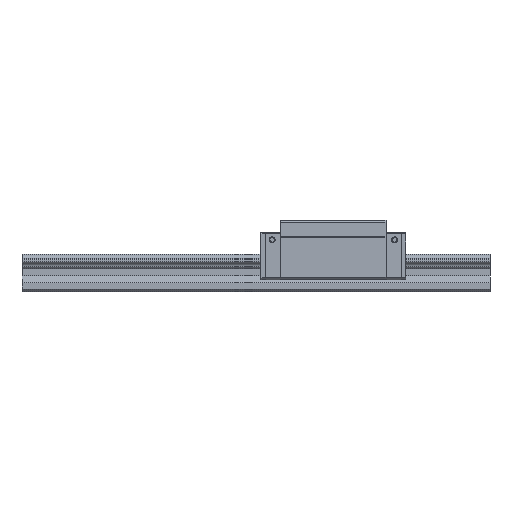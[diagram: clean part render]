
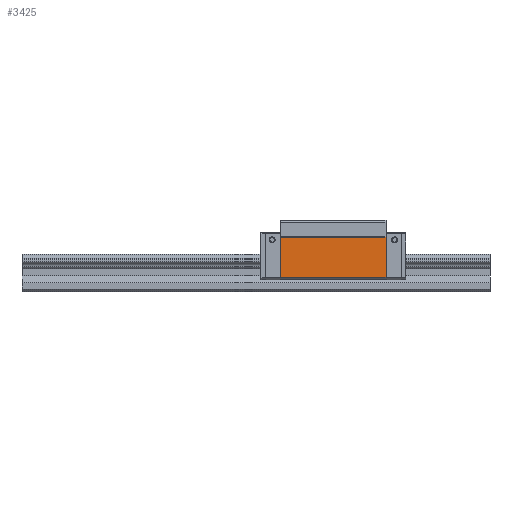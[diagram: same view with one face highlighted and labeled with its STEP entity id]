
A CAD part, top view. The second image highlights one B-rep face of the part: STEP entity #3425.
In plain terms, the highlighted planar face has unit normal (0, 0, 1).
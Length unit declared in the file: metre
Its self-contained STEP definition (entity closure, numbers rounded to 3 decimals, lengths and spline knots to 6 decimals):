
#3425 = ADVANCED_FACE( '', ( #7375 ), #7376, .F. );
#7375 = FACE_OUTER_BOUND( '', #17186, .T. );
#7376 = PLANE( '', #17187 );
#17186 = EDGE_LOOP( '', ( #30798, #30799, #30800, #30801 ) );
#17187 = AXIS2_PLACEMENT_3D( '', #30802, #30803, #30804 );
#30798 = ORIENTED_EDGE( '', *, *, #38644, .T. );
#30799 = ORIENTED_EDGE( '', *, *, #39677, .F. );
#30800 = ORIENTED_EDGE( '', *, *, #39678, .F. );
#30801 = ORIENTED_EDGE( '', *, *, #36719, .T. );
#30802 = CARTESIAN_POINT( '', ( 0.199, 0.0418, 0.0345 ) );
#30803 = DIRECTION( '', ( 0., 0., -1. ) );
#30804 = DIRECTION( '', ( -1., 0., 0. ) );
#36719 = EDGE_CURVE( '', #43475, #43473, #43476, .T. );
#38644 = EDGE_CURVE( '', #43473, #46440, #46442, .T. );
#39677 = EDGE_CURVE( '', #47823, #46440, #47824, .T. );
#39678 = EDGE_CURVE( '', #43475, #47823, #47825, .T. );
#43473 = VERTEX_POINT( '', #55070 );
#43475 = VERTEX_POINT( '', #55073 );
#43476 = LINE( '', #55074, #55075 );
#46440 = VERTEX_POINT( '', #61828 );
#46442 = LINE( '', #61831, #61832 );
#47823 = VERTEX_POINT( '', #64934 );
#47824 = LINE( '', #64935, #64936 );
#47825 = LINE( '', #64937, #64938 );
#55070 = CARTESIAN_POINT( '', ( 0.28, 0.011, 0.0345 ) );
#55073 = CARTESIAN_POINT( '', ( 0.199, 0.011, 0.0345 ) );
#55074 = CARTESIAN_POINT( '', ( 0.199, 0.011, 0.0345 ) );
#55075 = VECTOR( '', #68641, 1. );
#61828 = CARTESIAN_POINT( '', ( 0.28, 0.0418, 0.0345 ) );
#61831 = CARTESIAN_POINT( '', ( 0.28, 0.0418, 0.0345 ) );
#61832 = VECTOR( '', #70312, 1. );
#64934 = CARTESIAN_POINT( '', ( 0.199, 0.0418, 0.0345 ) );
#64935 = CARTESIAN_POINT( '', ( 0.199, 0.0418, 0.0345 ) );
#64936 = VECTOR( '', #71176, 1. );
#64937 = CARTESIAN_POINT( '', ( 0.199, 0.0418, 0.0345 ) );
#64938 = VECTOR( '', #71177, 1. );
#68641 = DIRECTION( '', ( 1., 0., 0. ) );
#70312 = DIRECTION( '', ( 0., 1., 0. ) );
#71176 = DIRECTION( '', ( 1., 0., 0. ) );
#71177 = DIRECTION( '', ( 0., 1., 0. ) );
